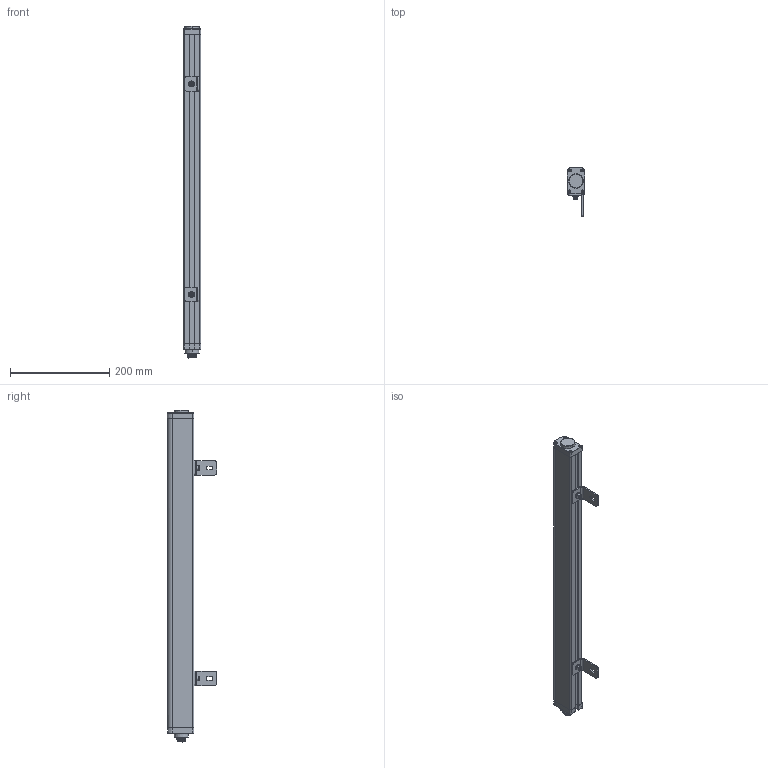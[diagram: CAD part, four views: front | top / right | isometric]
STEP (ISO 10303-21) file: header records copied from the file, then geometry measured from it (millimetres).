
FILE_DESCRIPTION((''),'2;1');
FILE_NAME('ESE8420_ASM','2021-07-12T15:01:47',('18720616900'),(''),'CREO PARAMETRIC BY PTC INC, 2019010','CREO PARAMETRIC BY PTC INC, 2019010','');
FILE_SCHEMA(('CONFIG_CONTROL_DESIGN'));
Length unit declared in the file: millimetre
Products named in the file (15): ESE--00; 000; ESE--000; HKCT2-1-SOLID1; HKCT11-1-SOLID1; 6_10001_ASM; ST-3-120001; L10001; M6-1-00; M6-1--00; M6-8--0001; 00; L1--0001_ASM; ESE8420_ASM
Assembly tree (22 placements, depth 3):
  ESE8420_ASM
    ESE--00
    000
    ESE--000
    ESE--000
    6_10001_ASM
      HKCT2-1-SOLID1
      HKCT11-1-SOLID1
    ST-3-120001  x8
    L1--0001_ASM  x2
      L10001
      M6-1-00
      M6-1--00
      M6-8--0001
      00
Bounding box: 35.3 x 99.3 x 670.59 mm (x, y, z)
Volume: 1126173.7 mm3; surface area: 186240 mm2
Topology: 24 solids, 24 shells, 1203 faces, 3161 edges, 2022 vertices
Faces by surface type: plane 340, cylinder 306, cone 246, bspline 233, torus 64, sphere 14
Entity records: 41666 total; most frequent: CARTESIAN_POINT 27268, ORIENTED_EDGE 3088, DIRECTION 2720, EDGE_CURVE 1544, AXIS2_PLACEMENT_3D 1052, VERTEX_POINT 1019, EDGE_LOOP 661, VECTOR 616
